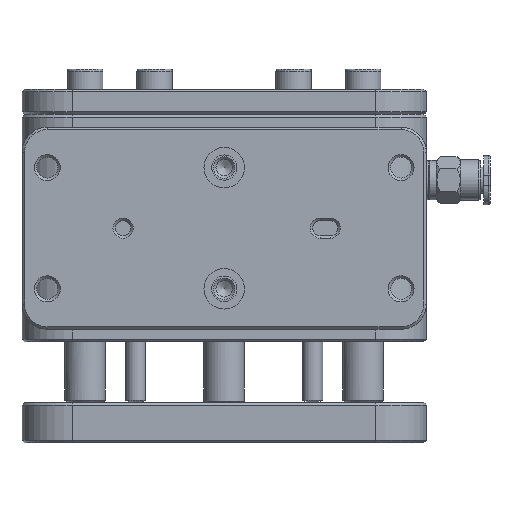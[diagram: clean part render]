
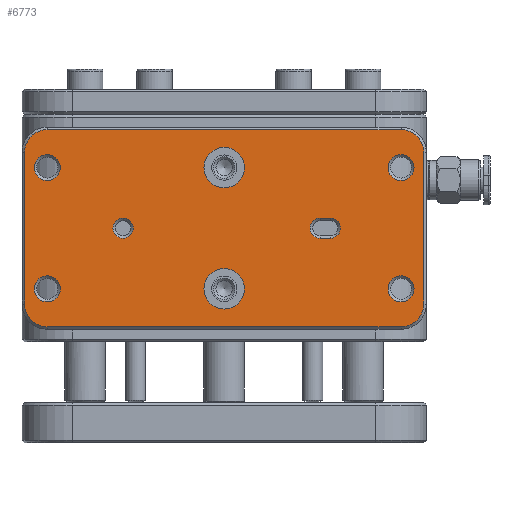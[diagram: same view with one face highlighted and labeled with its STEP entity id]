
A CAD part, front view. The second image highlights one B-rep face of the part: STEP entity #6773.
In plain terms, the highlighted planar face has unit normal (0, -1, 0).
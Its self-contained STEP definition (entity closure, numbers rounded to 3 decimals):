
#415=LINE($,#11249,#755);
#418=LINE($,#11256,#758);
#426=LINE($,#11292,#766);
#430=LINE($,#11303,#770);
#433=LINE($,#11311,#773);
#436=LINE($,#11318,#776);
#755=VECTOR($,#9262,2.);
#758=VECTOR($,#9271,2.);
#766=VECTOR($,#9309,30.);
#770=VECTOR($,#9321,70.);
#773=VECTOR($,#9330,30.);
#776=VECTOR($,#9339,70.);
#985=PLANE($,#7550);
#1414=FACE_BOUND($,#2537,.T.);
#1415=FACE_BOUND($,#2538,.T.);
#1416=FACE_BOUND($,#2539,.T.);
#1417=FACE_BOUND($,#2540,.T.);
#1418=FACE_BOUND($,#2541,.T.);
#1419=FACE_BOUND($,#2542,.T.);
#1420=FACE_BOUND($,#2543,.T.);
#1421=FACE_BOUND($,#2544,.T.);
#1422=FACE_BOUND($,#2545,.T.);
#2537=EDGE_LOOP($,(#5711));
#2538=EDGE_LOOP($,(#5712));
#2539=EDGE_LOOP($,(#5713,#5714,#5715,#5716));
#2540=EDGE_LOOP($,(#5717));
#2541=EDGE_LOOP($,(#5718));
#2542=EDGE_LOOP($,(#5719));
#2543=EDGE_LOOP($,(#5720,#5721,#5722,#5723,#5724,#5725,#5726,#5727));
#2544=EDGE_LOOP($,(#5728));
#2545=EDGE_LOOP($,(#5729));
#2872=CIRCLE($,#7463,4.);
#2875=CIRCLE($,#7469,4.);
#2882=CIRCLE($,#7484,2.);
#2883=CIRCLE($,#7487,2.);
#2885=CIRCLE($,#7492,2.);
#2891=CIRCLE($,#7502,4.5);
#2893=CIRCLE($,#7506,4.5);
#2894=CIRCLE($,#7509,4.5);
#2895=CIRCLE($,#7512,4.5);
#2904=CIRCLE($,#7536,2.567);
#2907=CIRCLE($,#7541,2.567);
#2910=CIRCLE($,#7546,2.567);
#2913=CIRCLE($,#7551,2.567);
#3416=VERTEX_POINT($,#11199);
#3419=VERTEX_POINT($,#11208);
#3430=VERTEX_POINT($,#11242);
#3431=VERTEX_POINT($,#11244);
#3432=VERTEX_POINT($,#11248);
#3433=VERTEX_POINT($,#11252);
#3435=VERTEX_POINT($,#11261);
#3443=VERTEX_POINT($,#11283);
#3445=VERTEX_POINT($,#11287);
#3446=VERTEX_POINT($,#11291);
#3448=VERTEX_POINT($,#11297);
#3449=VERTEX_POINT($,#11302);
#3450=VERTEX_POINT($,#11306);
#3451=VERTEX_POINT($,#11310);
#3452=VERTEX_POINT($,#11314);
#3466=VERTEX_POINT($,#11374);
#3469=VERTEX_POINT($,#11382);
#3472=VERTEX_POINT($,#11390);
#3475=VERTEX_POINT($,#11398);
#4146=EDGE_CURVE($,#3416,#3416,#2872,.T.);
#4149=EDGE_CURVE($,#3419,#3419,#2875,.T.);
#4165=EDGE_CURVE($,#3430,#3431,#2882,.T.);
#4167=EDGE_CURVE($,#3431,#3432,#415,.T.);
#4169=EDGE_CURVE($,#3432,#3433,#2883,.T.);
#4171=EDGE_CURVE($,#3433,#3430,#418,.T.);
#4173=EDGE_CURVE($,#3435,#3435,#2885,.T.);
#4186=EDGE_CURVE($,#3445,#3443,#2891,.T.);
#4187=EDGE_CURVE($,#3443,#3446,#426,.T.);
#4192=EDGE_CURVE($,#3446,#3448,#2893,.T.);
#4193=EDGE_CURVE($,#3448,#3449,#430,.T.);
#4196=EDGE_CURVE($,#3449,#3450,#2894,.T.);
#4197=EDGE_CURVE($,#3450,#3451,#433,.T.);
#4200=EDGE_CURVE($,#3451,#3452,#2895,.T.);
#4201=EDGE_CURVE($,#3452,#3445,#436,.T.);
#4230=EDGE_CURVE($,#3466,#3466,#2904,.T.);
#4233=EDGE_CURVE($,#3469,#3469,#2907,.T.);
#4236=EDGE_CURVE($,#3472,#3472,#2910,.T.);
#4239=EDGE_CURVE($,#3475,#3475,#2913,.T.);
#5711=ORIENTED_EDGE($,*,*,#4236,.F.);
#5712=ORIENTED_EDGE($,*,*,#4230,.F.);
#5713=ORIENTED_EDGE($,*,*,#4171,.F.);
#5714=ORIENTED_EDGE($,*,*,#4169,.F.);
#5715=ORIENTED_EDGE($,*,*,#4167,.F.);
#5716=ORIENTED_EDGE($,*,*,#4165,.F.);
#5717=ORIENTED_EDGE($,*,*,#4149,.T.);
#5718=ORIENTED_EDGE($,*,*,#4146,.T.);
#5719=ORIENTED_EDGE($,*,*,#4173,.F.);
#5720=ORIENTED_EDGE($,*,*,#4201,.F.);
#5721=ORIENTED_EDGE($,*,*,#4200,.F.);
#5722=ORIENTED_EDGE($,*,*,#4197,.F.);
#5723=ORIENTED_EDGE($,*,*,#4196,.F.);
#5724=ORIENTED_EDGE($,*,*,#4193,.F.);
#5725=ORIENTED_EDGE($,*,*,#4192,.F.);
#5726=ORIENTED_EDGE($,*,*,#4187,.F.);
#5727=ORIENTED_EDGE($,*,*,#4186,.F.);
#5728=ORIENTED_EDGE($,*,*,#4233,.F.);
#5729=ORIENTED_EDGE($,*,*,#4239,.F.);
#6773=ADVANCED_FACE($,(#1414,#1415,#1416,#1417,#1418,#1419,#1420,#1421,
#1422),#985,.T.);
#7463=AXIS2_PLACEMENT_3D($,#11200,#9206,#9207);
#7469=AXIS2_PLACEMENT_3D($,#11209,#9218,#9219);
#7484=AXIS2_PLACEMENT_3D($,#11245,#9257,#9258);
#7487=AXIS2_PLACEMENT_3D($,#11253,#9266,#9267);
#7492=AXIS2_PLACEMENT_3D($,#11262,#9278,#9279);
#7502=AXIS2_PLACEMENT_3D($,#11289,#9305,#9306);
#7506=AXIS2_PLACEMENT_3D($,#11300,#9317,#9318);
#7509=AXIS2_PLACEMENT_3D($,#11308,#9326,#9327);
#7512=AXIS2_PLACEMENT_3D($,#11316,#9335,#9336);
#7536=AXIS2_PLACEMENT_3D($,#11375,#9404,#9405);
#7541=AXIS2_PLACEMENT_3D($,#11383,#9414,#9415);
#7546=AXIS2_PLACEMENT_3D($,#11391,#9424,#9425);
#7550=AXIS2_PLACEMENT_3D($,#11397,#9432,#9433);
#7551=AXIS2_PLACEMENT_3D($,#11399,#9434,#9435);
#9206=DIRECTION('center_axis',(0.,1.,0.));
#9207=DIRECTION('ref_axis',(0.,0.,
-1.));
#9218=DIRECTION('center_axis',(0.,1.,0.));
#9219=DIRECTION('ref_axis',(0.,0.,
-1.));
#9257=DIRECTION('center_axis',(0.,-1.,0.));
#9258=DIRECTION('ref_axis',(0.,0.,
-1.));
#9262=DIRECTION($,(-1.,0.,0.));
#9266=DIRECTION('center_axis',(0.,-1.,0.));
#9267=DIRECTION('ref_axis',(0.,0.,
1.));
#9271=DIRECTION($,(1.,0.,0.));
#9278=DIRECTION('center_axis',(0.,-1.,0.));
#9279=DIRECTION('ref_axis',(0.,0.,
1.));
#9305=DIRECTION('center_axis',(0.,1.,0.));
#9306=DIRECTION('ref_axis',(-0.707,0.,-0.707));
#9309=DIRECTION($,(0.,0.,1.));
#9317=DIRECTION('center_axis',(0.,1.,0.));
#9318=DIRECTION('ref_axis',(-0.707,0.,0.707));
#9321=DIRECTION($,(1.,0.,0.));
#9326=DIRECTION('center_axis',(0.,1.,0.));
#9327=DIRECTION('ref_axis',(0.707,0.,0.707));
#9330=DIRECTION($,(0.,0.,-1.));
#9335=DIRECTION('center_axis',(0.,1.,0.));
#9336=DIRECTION('ref_axis',(0.707,0.,-0.707));
#9339=DIRECTION($,(-1.,0.,0.));
#9404=DIRECTION('center_axis',(0.,-1.,0.));
#9405=DIRECTION('ref_axis',(0.,0.,
1.));
#9414=DIRECTION('center_axis',(0.,-1.,0.));
#9415=DIRECTION('ref_axis',(0.,0.,
1.));
#9424=DIRECTION('center_axis',(0.,-1.,0.));
#9425=DIRECTION('ref_axis',(0.,0.,
1.));
#9432=DIRECTION('center_axis',(0.,-1.,0.));
#9433=DIRECTION('ref_axis',(0.,0.,-1.));
#9434=DIRECTION('center_axis',(0.,-1.,0.));
#9435=DIRECTION('ref_axis',(0.,0.,
1.));
#11199=CARTESIAN_POINT('',(0.,-50.,6.5));
#11200=CARTESIAN_POINT('Origin',(0.,-50.,10.5));
#11208=CARTESIAN_POINT('',(0.,-50.,30.5));
#11209=CARTESIAN_POINT('Origin',(0.,-50.,34.5));
#11242=CARTESIAN_POINT('',(21.,-50.,20.5));
#11244=CARTESIAN_POINT('',(21.,-50.,24.5));
#11245=CARTESIAN_POINT('Origin',(21.,-50.,22.5));
#11248=CARTESIAN_POINT('',(19.,-50.,24.5));
#11249=CARTESIAN_POINT($,(9.5,-50.,24.5));
#11252=CARTESIAN_POINT('',(19.,-50.,20.5));
#11253=CARTESIAN_POINT('Origin',(19.,-50.,22.5));
#11256=CARTESIAN_POINT($,(10.5,-50.,20.5));
#11261=CARTESIAN_POINT('',(-20.,-50.,20.5));
#11262=CARTESIAN_POINT('Origin',(-20.,-50.,22.5));
#11283=CARTESIAN_POINT('',(-39.5,-50.,7.5));
#11287=CARTESIAN_POINT('',(-35.,-50.,3.));
#11289=CARTESIAN_POINT('Origin',(-35.,-50.,7.5));
#11291=CARTESIAN_POINT('',(-39.5,-50.,37.5));
#11292=CARTESIAN_POINT($,(-39.5,-50.,32.5));
#11297=CARTESIAN_POINT('',(-35.,-50.,42.));
#11300=CARTESIAN_POINT('Origin',(-35.,-50.,37.5));
#11302=CARTESIAN_POINT('',(35.,-50.,42.));
#11303=CARTESIAN_POINT($,(20.,-50.,42.));
#11306=CARTESIAN_POINT('',(39.5,-50.,37.5));
#11308=CARTESIAN_POINT('Origin',(35.,-50.,37.5));
#11310=CARTESIAN_POINT('',(39.5,-50.,7.5));
#11311=CARTESIAN_POINT($,(39.5,-50.,12.5));
#11314=CARTESIAN_POINT('',(35.,-50.,3.));
#11316=CARTESIAN_POINT('Origin',(35.,-50.,7.5));
#11318=CARTESIAN_POINT($,(-20.,-50.,3.));
#11374=CARTESIAN_POINT('',(-35.,-50.,7.933));
#11375=CARTESIAN_POINT('Origin',(-35.,-50.,10.5));
#11382=CARTESIAN_POINT('',(-35.,-50.,31.933));
#11383=CARTESIAN_POINT('Origin',(-35.,-50.,34.5));
#11390=CARTESIAN_POINT('',(35.,-50.,7.933));
#11391=CARTESIAN_POINT('Origin',(35.,-50.,10.5));
#11397=CARTESIAN_POINT('Origin',(0.,-50.,22.5));
#11398=CARTESIAN_POINT('',(35.,-50.,31.933));
#11399=CARTESIAN_POINT('Origin',(35.,-50.,34.5));
